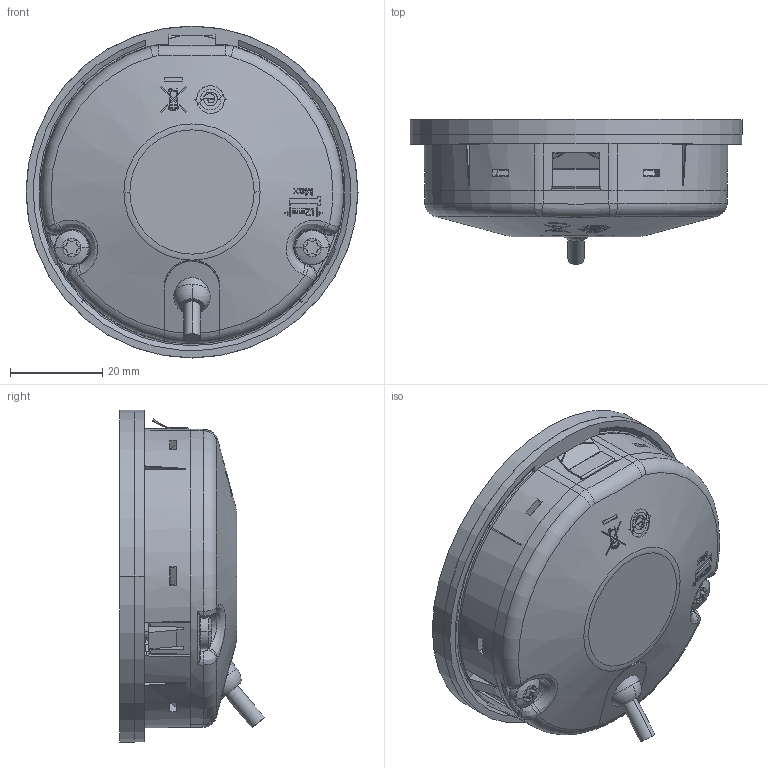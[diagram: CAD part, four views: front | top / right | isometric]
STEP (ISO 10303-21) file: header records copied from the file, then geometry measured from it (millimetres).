
FILE_DESCRIPTION((''),'2;1');
FILE_NAME('0949027','2011-12-28T',('MR'),(''),'PRO/ENGINEER BY PARAMETRIC TECHNOLOGY CORPORATION, 2010280','PRO/ENGINEER BY PARAMETRIC TECHNOLOGY CORPORATION, 2010280','');
FILE_SCHEMA(('CONFIG_CONTROL_DESIGN','SHAPE_APPEARANCE_LAYERS_GROUPS'));
Length unit declared in the file: millimetre
Products named in the file (1): 0949027
Bounding box: 71.8 x 31.34 x 71.8 mm (x, y, z)
Volume: 79799.7 mm3; surface area: 21384.8 mm2
Topology: 1 solids, 1 shells, 1136 faces, 3227 edges, 2171 vertices
Faces by surface type: plane 812, cylinder 168, cone 73, torus 43, bspline 29, sphere 6, extrusion 5
Entity records: 40939 total; most frequent: CARTESIAN_POINT 12540, ORIENTED_EDGE 6444, DIRECTION 5051, EDGE_CURVE 3222, VERTEX_POINT 2171, VECTOR 1777, LINE 1772, AXIS2_PLACEMENT_3D 1637
